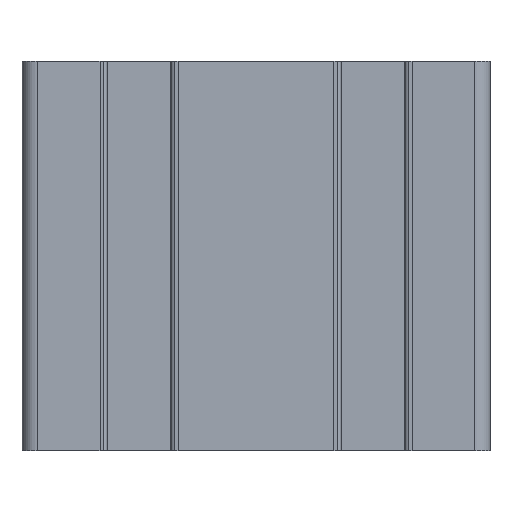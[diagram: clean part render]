
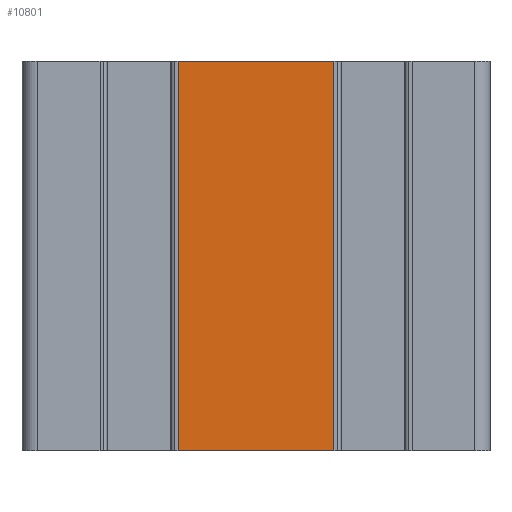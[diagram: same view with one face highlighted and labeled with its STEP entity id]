
A CAD part, left-side view. The second image highlights one B-rep face of the part: STEP entity #10801.
In plain terms, the highlighted planar face has unit normal (-1, 0, 0).
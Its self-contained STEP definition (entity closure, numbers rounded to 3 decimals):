
#129 = CARTESIAN_POINT ( 'NONE',  ( -64.984, 106.129, 0. ) ) ;
#459 = CARTESIAN_POINT ( 'NONE',  ( -64.984, 126.129, 50. ) ) ;
#725 = ORIENTED_EDGE ( 'NONE', *, *, #8985, .F. ) ;
#750 = CARTESIAN_POINT ( 'NONE',  ( -64.984, 126.129, 0. ) ) ;
#1082 = VERTEX_POINT ( 'NONE', #1259 ) ;
#1259 = CARTESIAN_POINT ( 'NONE',  ( -64.984, 106.129, 50. ) ) ;
#1554 = DIRECTION ( 'NONE',  ( 0., 0., 1. ) ) ;
#1571 = ORIENTED_EDGE ( 'NONE', *, *, #3509, .T. ) ;
#1956 = AXIS2_PLACEMENT_3D ( 'NONE', #8935, #11296, #8026 ) ;
#2457 = LINE ( 'NONE', #129, #13027 ) ;
#3509 = EDGE_CURVE ( 'NONE', #9378, #4401, #14512, .T. ) ;
#4401 = VERTEX_POINT ( 'NONE', #750 ) ;
#5397 = ORIENTED_EDGE ( 'NONE', *, *, #8836, .T. ) ;
#6264 = ORIENTED_EDGE ( 'NONE', *, *, #13482, .T. ) ;
#6305 = PLANE ( 'NONE',  #1956 ) ;
#7010 = DIRECTION ( 'NONE',  ( 0., -1., 0. ) ) ;
#7565 = DIRECTION ( 'NONE',  ( 0., 0., -1. ) ) ;
#7914 = FACE_OUTER_BOUND ( 'NONE', #11334, .T. ) ;
#7969 = LINE ( 'NONE', #459, #14095 ) ;
#8026 = DIRECTION ( 'NONE',  ( 0., 0., 1. ) ) ;
#8836 = EDGE_CURVE ( 'NONE', #4401, #14515, #2457, .T. ) ;
#8935 = CARTESIAN_POINT ( 'NONE',  ( -64.984, 106.129, 0. ) ) ;
#8985 = EDGE_CURVE ( 'NONE', #9378, #1082, #7969, .T. ) ;
#9304 = CARTESIAN_POINT ( 'NONE',  ( -64.984, 106.129, 0. ) ) ;
#9378 = VERTEX_POINT ( 'NONE', #12617 ) ;
#9442 = CARTESIAN_POINT ( 'NONE',  ( -64.984, 106.129, 0. ) ) ;
#9824 = LINE ( 'NONE', #9442, #14152 ) ;
#10697 = DIRECTION ( 'NONE',  ( 0., -1., 0. ) ) ;
#10801 = ADVANCED_FACE ( 'NONE', ( #7914 ), #6305, .T. ) ;
#11296 = DIRECTION ( 'NONE',  ( -1., 0., 0. ) ) ;
#11334 = EDGE_LOOP ( 'NONE', ( #6264, #725, #1571, #5397 ) ) ;
#11474 = VECTOR ( 'NONE', #7565, 1000. ) ;
#12617 = CARTESIAN_POINT ( 'NONE',  ( -64.984, 126.129, 50. ) ) ;
#13027 = VECTOR ( 'NONE', #7010, 1000. ) ;
#13296 = CARTESIAN_POINT ( 'NONE',  ( -64.984, 126.129, 0. ) ) ;
#13482 = EDGE_CURVE ( 'NONE', #14515, #1082, #9824, .T. ) ;
#14095 = VECTOR ( 'NONE', #10697, 1000. ) ;
#14152 = VECTOR ( 'NONE', #1554, 1000. ) ;
#14512 = LINE ( 'NONE', #13296, #11474 ) ;
#14515 = VERTEX_POINT ( 'NONE', #9304 ) ;
